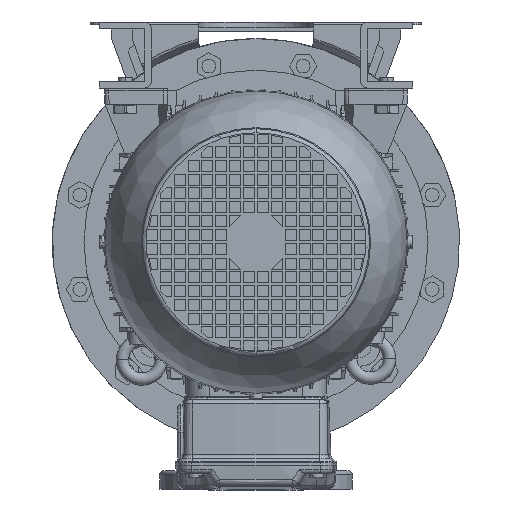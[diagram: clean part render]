
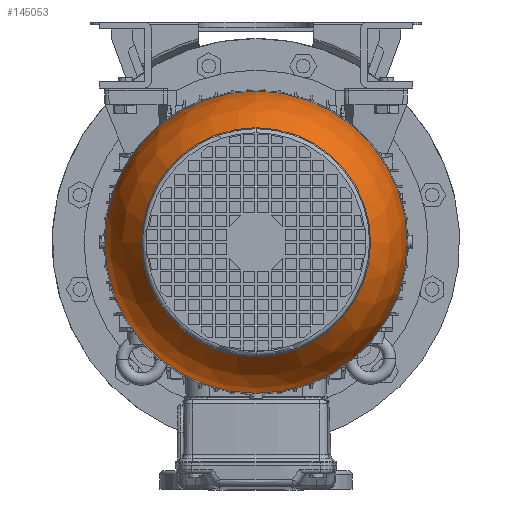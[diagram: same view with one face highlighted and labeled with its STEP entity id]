
A CAD part, front view. The second image highlights one B-rep face of the part: STEP entity #145053.
In plain terms, the highlighted spherical face has radius 109.795 mm.
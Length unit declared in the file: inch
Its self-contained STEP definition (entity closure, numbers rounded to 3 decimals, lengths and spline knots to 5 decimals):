
#3954 = CARTESIAN_POINT ( 'NONE',  ( -4.58858, 0., 0. ) ) ;
#4838 = DIRECTION ( 'NONE',  ( -1., 0., 0. ) ) ;
#5418 = CARTESIAN_POINT ( 'NONE',  ( -7.40796, 0., 0. ) ) ;
#12528 = DIRECTION ( 'NONE',  ( -1., 0., 0. ) ) ;
#21128 = CIRCLE ( 'NONE', #24044, 3.27661 ) ;
#24044 = AXIS2_PLACEMENT_3D ( 'NONE', #107779, #69475, #106889 ) ;
#37833 = VERTEX_POINT ( 'NONE', #145062 ) ;
#46691 = DIRECTION ( 'NONE',  ( 0., -1., 0. ) ) ;
#51630 = VERTEX_POINT ( 'NONE', #101480 ) ;
#52921 = ORIENTED_EDGE ( 'NONE', *, *, #59542, .T. ) ;
#54343 = CARTESIAN_POINT ( 'NONE',  ( -7.40796, 3.27661, 0. ) ) ;
#56777 = EDGE_CURVE ( 'NONE', #37833, #80219, #21128, .T. ) ;
#58313 = DIRECTION ( 'NONE',  ( 1., 0., 0. ) ) ;
#59542 = EDGE_CURVE ( 'NONE', #100379, #51630, #87157, .T. ) ;
#62434 = AXIS2_PLACEMENT_3D ( 'NONE', #5418, #88278, #100777 ) ;
#69475 = DIRECTION ( 'NONE',  ( -1., 0., 0. ) ) ;
#70840 = DIRECTION ( 'NONE',  ( 0., -1., 0. ) ) ;
#72587 = FACE_BOUND ( 'NONE', #111932, .T. ) ;
#76086 = CARTESIAN_POINT ( 'NONE',  ( -4.70174, 0., 0. ) ) ;
#80219 = VERTEX_POINT ( 'NONE', #54343 ) ;
#81509 = CARTESIAN_POINT ( 'NONE',  ( -4.70174, -4.32114, 0. ) ) ;
#87157 = CIRCLE ( 'NONE', #98613, 4.32114 ) ;
#88172 = EDGE_LOOP ( 'NONE', ( #114483, #52921 ) ) ;
#88278 = DIRECTION ( 'NONE',  ( -1., 0., 0. ) ) ;
#98613 = AXIS2_PLACEMENT_3D ( 'NONE', #76086, #4838, #46691 ) ;
#99281 = SPHERICAL_SURFACE ( 'NONE', #146818, 4.32262 ) ;
#100379 = VERTEX_POINT ( 'NONE', #81509 ) ;
#100633 = ORIENTED_EDGE ( 'NONE', *, *, #166766, .F. ) ;
#100777 = DIRECTION ( 'NONE',  ( 0., -1., 0. ) ) ;
#101480 = CARTESIAN_POINT ( 'NONE',  ( -4.70174, 4.32114, 0. ) ) ;
#106889 = DIRECTION ( 'NONE',  ( 0., -1., 0. ) ) ;
#107779 = CARTESIAN_POINT ( 'NONE',  ( -7.40796, 0., 0. ) ) ;
#111932 = EDGE_LOOP ( 'NONE', ( #171034, #100633 ) ) ;
#114483 = ORIENTED_EDGE ( 'NONE', *, *, #149541, .T. ) ;
#126911 = FACE_OUTER_BOUND ( 'NONE', #88172, .T. ) ;
#131960 = DIRECTION ( 'NONE',  ( 0., -1., 0. ) ) ;
#134616 = CARTESIAN_POINT ( 'NONE',  ( -4.70174, 0., 0. ) ) ;
#145053 = ADVANCED_FACE ( 'NONE', ( #72587, #126911 ), #99281, .T. ) ;
#145062 = CARTESIAN_POINT ( 'NONE',  ( -7.40796, -3.27661, 0. ) ) ;
#146818 = AXIS2_PLACEMENT_3D ( 'NONE', #3954, #58313, #70840 ) ;
#147312 = CIRCLE ( 'NONE', #153031, 4.32114 ) ;
#149541 = EDGE_CURVE ( 'NONE', #51630, #100379, #147312, .T. ) ;
#150586 = CIRCLE ( 'NONE', #62434, 3.27661 ) ;
#153031 = AXIS2_PLACEMENT_3D ( 'NONE', #134616, #12528, #131960 ) ;
#166766 = EDGE_CURVE ( 'NONE', #80219, #37833, #150586, .T. ) ;
#171034 = ORIENTED_EDGE ( 'NONE', *, *, #56777, .F. ) ;
